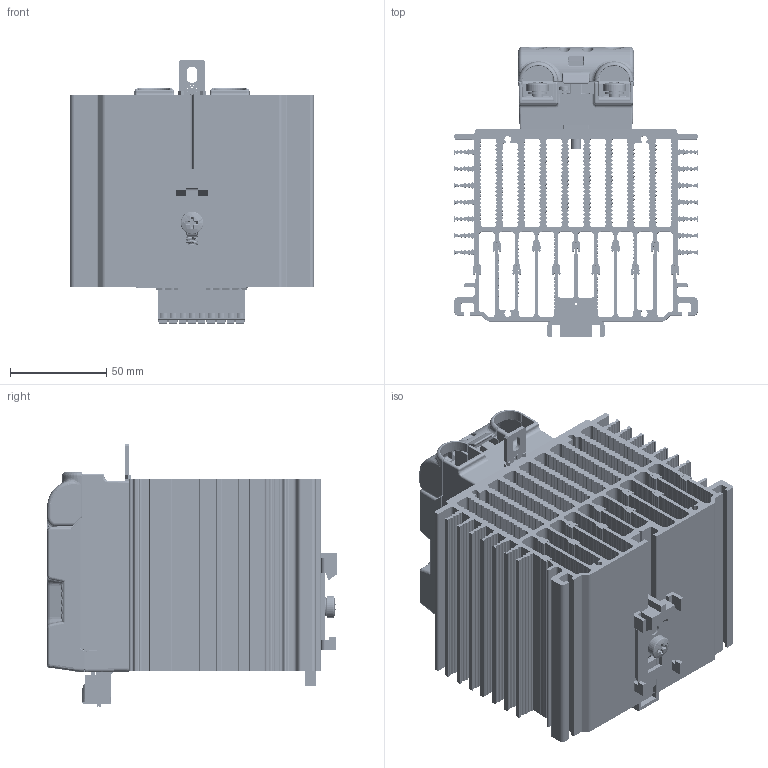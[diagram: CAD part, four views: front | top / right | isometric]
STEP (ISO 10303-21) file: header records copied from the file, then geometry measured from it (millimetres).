
FILE_DESCRIPTION((''),'2;1');
FILE_NAME('GTF_75_90A','2019-07-18T16:39:43',('paolo.garatti'),('GEFRAN S.p.A via Carducci,24 21040 Gerenzano (VA)'),'CREO PARAMETRIC BY PTC INC, 2018300','CREO PARAMETRIC BY PTC INC, 2018300','');
FILE_SCHEMA(('AUTOMOTIVE_DESIGN { 1 0 10303 214 1 1 1 1 }'));
Products named in the file (53): 4610D0; 3534D2; 4619D0; 56386_LINGUETTA_TERRA_GTS60A; 47108_ROND_OND_D5; 48216_VITE_M5X14_DIN7985; 3674D_46223; 3917D_51760; 3946D_49238; 46101_OLD; 47020_ROND_ZIG_M6; 48000_VITE_TCB_CROSS_M6X10; 1960028_BARRA_DIN35; 51898_INVOLUCRO_BASE; 8S8D30; CTT128_CONTATTO_PWR; 5356D_CTT126; 51889_SCHERMO_ISOLANTE; 8S8B92; 43006_PULSANTE_90_W21X; OPTO_TRIAC-3P; LED; MAGNETE; SO8; OPTO_SFH6186; LH1510; SFH690BT; B6S; CHIP_MC9508AC60FJ; MC78FC50; 22507; 1923827; HEADER_2X6_PASSO2_AMTEK; R100; 72005; 56469_3X2_MMT103-01-T-DH-P; SONDA_TEMP; 1910429_1; BASEBOARD_GTX; 56095_CONN_RJ11_4V_90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
Assembly tree (78 placements, depth 3):
  GTF_75_90A
    4619D0
      4610D0
      3534D2
    56386_LINGUETTA_TERRA_GTS60A
    47108_ROND_OND_D5
    48216_VITE_M5X14_DIN7985  x3
    1960028_BARRA_DIN35
      3674D_46223
      3917D_51760
      3946D_49238
      46101_OLD
      47020_ROND_ZIG_M6
      48000_VITE_TCB_CROSS_M6X10
    51898_INVOLUCRO_BASE
    8S8D30  x2
    CTT128_CONTATTO_PWR  x2
    48000_VITE_TCB_CROSS_M6X10  x2
    47020_ROND_ZIG_M6  x2
    5356D_CTT126  x4
    51889_SCHERMO_ISOLANTE
    8S8B92
    BASEBOARD_GTX
      43006_PULSANTE_90_W21X
      OPTO_TRIAC-3P  x2
      LED  x5
      MAGNETE
      SO8  x3
      OPTO_SFH6186
      LH1510
      SFH690BT
      B6S
      CHIP_MC9508AC60FJ
      MC78FC50
      22507
      1923827
      HEADER_2X6_PASSO2_AMTEK
      R100
      72005
      56469_3X2_MMT103-01-T-DH-P
      SONDA_TEMP
      1910429_1
    GTF_SERIALE_RS485
      MAGNETE
      22507
      56095_CONN_RJ11_4V_90  x2
      SWITCH_2VIE_PIANO_UP
      43539_ROTARY_SWITCH_1248_90  x2
      FEMALE_HEADER_2X6_PASSO2
    1455D_48213
    DIS00969_1
      DIS009691_518991
      DIS00969_P1
    DIS00847_51100_OLD  x5
    342467_PIASTRINA
    51900_COPERCHIO_POWER
    51909_SPORTELLINO_PROG
Bounding box: 126.6 x 151.05 x 136.95 mm (x, y, z)
Volume: 527786.6 mm3; surface area: 465790.7 mm2
Topology: 224 solids, 224 shells, 15571 faces, 42026 edges, 27119 vertices
Faces by surface type: plane 8947, cylinder 4447, extrusion 880, bspline 532, torus 425, cone 226, sphere 114
Entity records: 575539 total; most frequent: CARTESIAN_POINT 125187, ORIENTED_EDGE 73786, DIRECTION 66488, EDGE_CURVE 36893, PRESENTATION_STYLE_ASSIGNMENT 25770, VECTOR 25602, STYLED_ITEM 25047, LINE 24722
